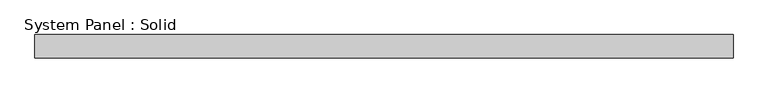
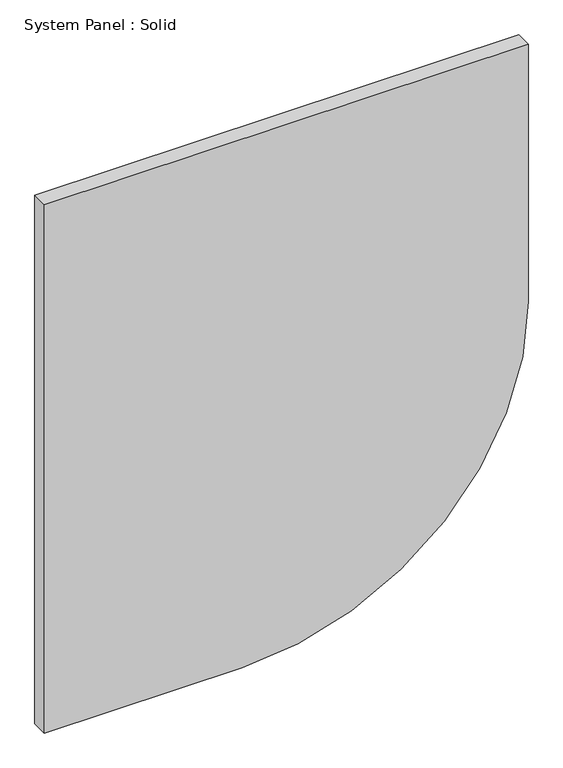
"""IFC4 building model written with IfcOpenShell, lengths in millimetres: plate geometry, System Panel : Solid."""

import ifcopenshell
import ifcopenshell.guid

model = None  # the IFC model being written
_history = None  # IfcOwnerHistory: only IFC2X3 demands one
_inside = {}  # id of a spatial element -> (the spatial element, [elements in it])
_under = {}  # id of a project, library or spatial element -> (it, [spatial elements below it])
_declared = {}  # id of a project -> (the project, [libraries it declares])
_typed = {}  # id of a type object -> (the type object, [elements of that type])
_made_of = {}  # id of a material, layer set ... -> (it, [elements and type objects made of it])


def new_model(schema):
    """Start an empty IFC model of exactly this schema.

    Asked for "IFC4X3", IfcOpenShell would pick the latest addendum, in which some entities
    have other attributes; the version numbers below select the first issue.
    IFC2X3 requires an IfcOwnerHistory on every rooted entity: one is made here for all.
    """
    global model, _history
    if schema == "IFC4X3":
        model = ifcopenshell.file(schema_version=(4, 3, 0, 0))
    else:
        model = ifcopenshell.file(schema=schema)
    _inside.clear()
    _under.clear()
    _declared.clear()
    _typed.clear()
    _made_of.clear()
    _history = None
    if model.schema == "IFC2X3":
        org = make("IfcOrganization", Name="unknown")
        user = make(
            "IfcPersonAndOrganization",
            ThePerson=make("IfcPerson", FamilyName="unknown"),
            TheOrganization=org,
        )
        app = make(
            "IfcApplication",
            ApplicationDeveloper=org,
            Version="unknown",
            ApplicationFullName="unknown",
            ApplicationIdentifier="unknown",
        )
        _history = make(
            "IfcOwnerHistory",
            OwningUser=user,
            OwningApplication=app,
            ChangeAction="ADDED",
            CreationDate=0,
        )
    return model


def make(cls, **values):
    """One entity of the class cls with the attributes given. An attribute that is None is left unset."""
    return model.create_entity(
        cls, **{name: value for name, value in values.items() if value is not None}
    )


def rooted(cls, **values):
    """An entity with a GlobalId (a new one), such as an element, a storey or a relation."""
    return make(cls, GlobalId=ifcopenshell.guid.new(), OwnerHistory=_history, **values)


def si_unit(unit_type, name, prefix=None):
    """IfcSIUnit, for example si_unit("LENGTHUNIT", "METRE", prefix="MILLI")."""
    return make("IfcSIUnit", UnitType=unit_type, Prefix=prefix, Name=name)


def assignment(units):
    """IfcUnitAssignment: the units of a project."""
    return None if units is None else make("IfcUnitAssignment", Units=units)


def point(xyz):
    """IfcCartesianPoint."""
    return None if xyz is None else make("IfcCartesianPoint", Coordinates=xyz)


def direction(xyz):
    """IfcDirection."""
    return None if xyz is None else make("IfcDirection", DirectionRatios=xyz)


def frame(location, z_axis=None, x_axis=None):
    """IfcAxis2Placement3D, a coordinate frame: its origin and axes. An axis left out is left unset."""
    return make(
        "IfcAxis2Placement3D",
        Location=point(location),
        Axis=direction(z_axis),
        RefDirection=direction(x_axis),
    )


def frame_2d(location, x_axis=None):
    """IfcAxis2Placement2D, a coordinate frame in the plane: its origin and x axis."""
    return make(
        "IfcAxis2Placement2D", Location=point(location), RefDirection=direction(x_axis)
    )


def origin():
    """The frame at (0, 0, 0) with its axes left unset."""
    return frame((0.0, 0.0, 0.0))


def place(relative_to, where):
    """IfcLocalPlacement: puts the frame where relative to a parent placement (None: the world)."""
    return make(
        "IfcLocalPlacement", PlacementRelTo=relative_to, RelativePlacement=where
    )


def context(
    kind, dimensions, precision=None, world=None, true_north=None, identifier=None
):
    """IfcGeometricRepresentationContext, for example the 3D "Model" context."""
    return make(
        "IfcGeometricRepresentationContext",
        ContextIdentifier=identifier,
        ContextType=kind,
        CoordinateSpaceDimension=dimensions,
        Precision=precision,
        WorldCoordinateSystem=world,
        TrueNorth=true_north,
    )


def project(units=None, contexts=None):
    """IfcProject with its units and contexts."""
    return rooted(
        "IfcProject",
        Name="project",
        RepresentationContexts=contexts,
        UnitsInContext=assignment(units),
    )


def spatial(cls, under=None, at=None, **own):
    """A site, building, storey or space (cls), placed at a placement, below another one or the project."""
    s = rooted(cls, ObjectPlacement=at, **own)
    if under is not None:
        _under.setdefault(under.id(), (under, []))[1].append(s)
    return s


def polyline(points):
    """IfcPolyline through the points."""
    return make("IfcPolyline", Points=[point(p) for p in points])


def circle_curve(where, radius):
    """IfcCircle in the frame where."""
    return make("IfcCircle", Position=where, Radius=radius)


def trimmed(basis, trim1, trim2, sense, master):
    """IfcTrimmedCurve: the piece of a basis curve between two trims."""
    return make(
        "IfcTrimmedCurve",
        BasisCurve=basis,
        Trim1=trim1,
        Trim2=trim2,
        SenseAgreement=sense,
        MasterRepresentation=master,
    )


def segment(curve, same_sense, transition):
    """IfcCompositeCurveSegment."""
    return make(
        "IfcCompositeCurveSegment",
        Transition=transition,
        SameSense=same_sense,
        ParentCurve=curve,
    )


def composite_curve(segments, self_intersect=None):
    """IfcCompositeCurve: segments joined end to end."""
    return make("IfcCompositeCurve", Segments=segments, SelfIntersect=self_intersect)


def outline(outer, holes=None, kind="AREA"):
    """IfcArbitraryClosedProfileDef: a profile drawn as a closed curve; with holes, ...WithVoids."""
    if holes is None:
        return make("IfcArbitraryClosedProfileDef", ProfileType=kind, OuterCurve=outer)
    return make(
        "IfcArbitraryProfileDefWithVoids",
        ProfileType=kind,
        OuterCurve=outer,
        InnerCurves=holes,
    )


def extrude(swept, where, along, depth):
    """IfcExtrudedAreaSolid: the profile swept, set in the frame where, extruded along a direction by depth."""
    return make(
        "IfcExtrudedAreaSolid",
        SweptArea=swept,
        Position=where,
        ExtrudedDirection=direction(along),
        Depth=depth,
    )


def shape(context_of_items, identifier, shape_type, items):
    """IfcShapeRepresentation: the items that make up one representation, for example the "Body"."""
    return make(
        "IfcShapeRepresentation",
        ContextOfItems=context_of_items,
        RepresentationIdentifier=identifier,
        RepresentationType=shape_type,
        Items=items,
    )


def source(mapping_origin, context_of_items, identifier, shape_type, items):
    """IfcRepresentationMap: a shape defined once, which mapped items show again and again."""
    return make(
        "IfcRepresentationMap",
        MappingOrigin=mapping_origin,
        MappedRepresentation=shape(context_of_items, identifier, shape_type, items),
    )


def transform(
    local_origin,
    x_axis=None,
    y_axis=None,
    z_axis=None,
    scale=None,
    scale2=None,
    scale3=None,
    uniform=True,
):
    """IfcCartesianTransformationOperator3D, or its non-uniform kind. x_axis, y_axis, z_axis: its Axis1, 2, 3."""
    if uniform:
        return make(
            "IfcCartesianTransformationOperator3D",
            Axis1=direction(x_axis),
            Axis2=direction(y_axis),
            LocalOrigin=point(local_origin),
            Scale=scale,
            Axis3=direction(z_axis),
        )
    return make(
        "IfcCartesianTransformationOperator3DnonUniform",
        Axis1=direction(x_axis),
        Axis2=direction(y_axis),
        LocalOrigin=point(local_origin),
        Scale=scale,
        Axis3=direction(z_axis),
        Scale2=scale2,
        Scale3=scale3,
    )


def mapped(mapping_source, mapping_target):
    """IfcMappedItem: shows the shape of a source again, moved by a transform."""
    return make(
        "IfcMappedItem", MappingSource=mapping_source, MappingTarget=mapping_target
    )


def made_of(thing, what):
    """Note that an element or type object is made of a material, layer set ...; save() writes the relation."""
    if what is not None:
        _made_of.setdefault(what.id(), (what, []))[1].append(thing)
    return thing


def element(
    cls,
    number,
    at=None,
    inside=None,
    cuts=None,
    type_object=None,
    material=None,
    context=None,
    identifier="Body",
    shape_type=None,
    held_by="IfcProductDefinitionShape",
    body=None,
    shapes=None,
    **own,
):
    """One element of the class cls, such as IfcWall. Its Tag is "e" and its number.

    at: its placement. inside: the storey or other place that contains it. cuts: it is an
    opening in that element (IfcRelVoidsElement). A single representation is given by context,
    identifier, shape_type and body (its items); several are given by shapes. held_by: the class
    of the entity that holds the representations. save() writes the other relations.
    """
    e = rooted(cls, Tag="e%d" % number, ObjectPlacement=at, **own)
    if body is not None:
        shapes = [shape(context, identifier, shape_type, body)]
    if shapes is not None:
        e.Representation = make(held_by, Representations=shapes)
    if inside is not None:
        _inside.setdefault(inside.id(), (inside, []))[1].append(e)
    if cuts is not None:
        rooted(
            "IfcRelVoidsElement", RelatingBuildingElement=cuts, RelatedOpeningElement=e
        )
    if type_object is not None:
        _typed.setdefault(type_object.id(), (type_object, []))[1].append(e)
    return made_of(e, material)


def aggregate(whole, parts):
    """IfcRelAggregates: a whole, such as a stair, and the parts it consists of."""
    return rooted("IfcRelAggregates", RelatingObject=whole, RelatedObjects=parts)


def save(model, path):
    """Write the relations noted so far, then the file.

    IfcRelAggregates (storeys below a building ...), IfcRelContainedInSpatialStructure (elements
    in a storey), IfcRelDefinesByType, IfcRelAssociatesMaterial and IfcRelDeclares: one each for
    every whole, place, type object, material and project.
    """
    for whole, parts in _under.values():
        aggregate(whole, parts)
    for where, things in _inside.values():
        rooted(
            "IfcRelContainedInSpatialStructure",
            RelatedElements=things,
            RelatingStructure=where,
        )
    for kind, things in _typed.values():
        rooted("IfcRelDefinesByType", RelatedObjects=things, RelatingType=kind)
    for what, things in _made_of.values():
        rooted("IfcRelAssociatesMaterial", RelatedObjects=things, RelatingMaterial=what)
    for by, libraries in _declared.values():
        rooted("IfcRelDeclares", RelatingContext=by, RelatedDefinitions=libraries)
    model.write(path)


def system_panel_solid_737758fe(model_context):
    return source(origin(), model_context, "Body", "SweptSolid", [
        extrude(outline(composite_curve([segment(polyline([(0.0, -519.9999998), (0.0, -95.0000002)]), True, "CONTINUOUS"), segment(trimmed(circle_curve(frame_2d((615.0, -95.0000002)), 615.0), [point((0.0, -95.0000002))], [point((615.0, 519.9999998))], False, "CARTESIAN"), True, "CONTINUOUS"), segment(polyline([(615.0, 519.9999998), (1200.0, 519.9999998), (1200.0, -519.9999998), (0.0, -519.9999998)]), True, "CONTINUOUS")], self_intersect=False)), frame((0.0, -2.5, 0.0), z_axis=(0.0, 1.0, 0.0), x_axis=(0.0, 0.0, 1.0)), (0.0, 0.0, 1.0), 35.0),
    ])


if __name__ == "__main__":
    model = new_model("IFC4")
    model_context = context("Model", 3, world=origin())
    ifc_project = project(units=[si_unit("LENGTHUNIT", "METRE", prefix="MILLI")], contexts=[model_context])
    site = spatial("IfcSite", under=ifc_project)
    building = spatial("IfcBuilding", under=site)
    placement = place(None, origin())
    system_panel_solid_shape = system_panel_solid_737758fe(model_context)
    element("IfcPlate", 1, ObjectType="System Panel : Solid", at=placement, inside=building, context=model_context, shape_type="MappedRepresentation", body=[
        mapped(system_panel_solid_shape, transform((0.0, 0.0, 0.0), x_axis=(1.0, 0.0, 0.0), y_axis=(0.0, 1.0, 0.0), z_axis=(0.0, 0.0, 1.0))),
    ])
    save(model, "model.ifc")
